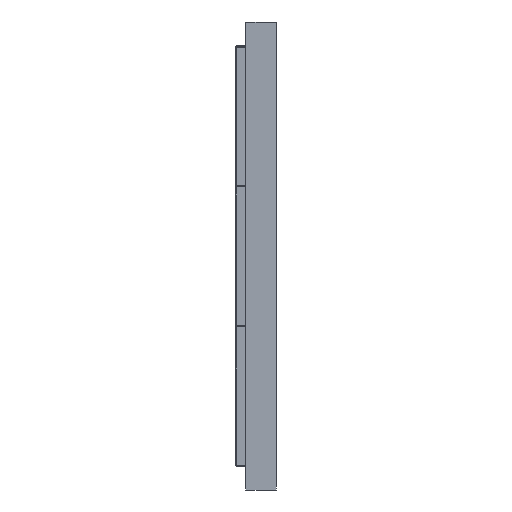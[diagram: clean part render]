
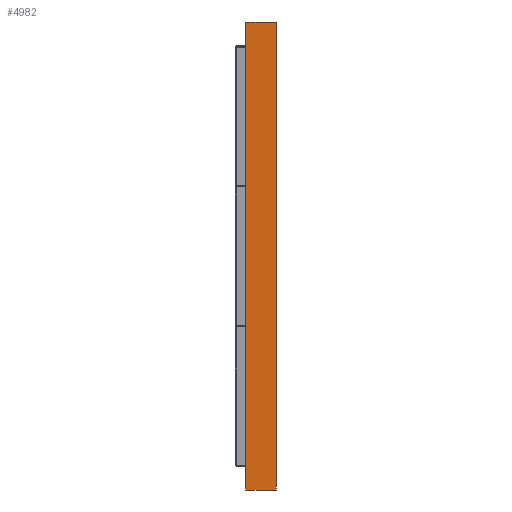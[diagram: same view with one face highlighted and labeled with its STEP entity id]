
A CAD part, left-side view. The second image highlights one B-rep face of the part: STEP entity #4982.
In plain terms, the highlighted planar face has unit normal (-0.999, 0, -0.035).
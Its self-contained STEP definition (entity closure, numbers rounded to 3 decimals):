
#694 = AXIS2_PLACEMENT_3D ( 'NONE', #14592, #21034, #9071 ) ;
#4085 = CARTESIAN_POINT ( 'NONE',  ( -79.041, 152.92, 276.41 ) ) ;
#4120 = DIRECTION ( 'NONE',  ( 0., -1., 0. ) ) ;
#4333 = ORIENTED_EDGE ( 'NONE', *, *, #12287, .F. ) ;
#4982 = ADVANCED_FACE ( 'NONE', ( #9617 ), #29141, .F. ) ;
#5121 = EDGE_CURVE ( 'NONE', #35282, #16017, #33361, .T. ) ;
#6894 = CARTESIAN_POINT ( 'NONE',  ( -79.041, 164.92, 276.41 ) ) ;
#7831 = VERTEX_POINT ( 'NONE', #6894 ) ;
#8170 = ORIENTED_EDGE ( 'NONE', *, *, #24287, .F. ) ;
#9071 = DIRECTION ( 'NONE',  ( 0., -1., 0. ) ) ;
#9223 = VERTEX_POINT ( 'NONE', #13701 ) ;
#9617 = FACE_OUTER_BOUND ( 'NONE', #31654, .T. ) ;
#10734 = LINE ( 'NONE', #21954, #17932 ) ;
#11809 = DIRECTION ( 'NONE',  ( 0., -1., 0. ) ) ;
#12287 = EDGE_CURVE ( 'NONE', #7831, #35282, #12352, .T. ) ;
#12352 = LINE ( 'NONE', #23584, #17698 ) ;
#13146 = CARTESIAN_POINT ( 'NONE',  ( -72.616, 164.92, 92.41 ) ) ;
#13701 = CARTESIAN_POINT ( 'NONE',  ( -72.616, 164.92, 92.41 ) ) ;
#14592 = CARTESIAN_POINT ( 'NONE',  ( -72.616, 164.92, 92.41 ) ) ;
#16017 = VERTEX_POINT ( 'NONE', #28301 ) ;
#17295 = DIRECTION ( 'NONE',  ( 0.035, 0., -0.999 ) ) ;
#17698 = VECTOR ( 'NONE', #4120, 1000. ) ;
#17923 = LINE ( 'NONE', #13146, #26656 ) ;
#17932 = VECTOR ( 'NONE', #11809, 1000. ) ;
#21034 = DIRECTION ( 'NONE',  ( 0.999, 0., 0.035 ) ) ;
#21954 = CARTESIAN_POINT ( 'NONE',  ( -72.616, 164.92, 92.41 ) ) ;
#21964 = DIRECTION ( 'NONE',  ( -0.035, 0., 0.999 ) ) ;
#23584 = CARTESIAN_POINT ( 'NONE',  ( -79.041, 164.92, 276.41 ) ) ;
#24086 = ORIENTED_EDGE ( 'NONE', *, *, #5121, .F. ) ;
#24287 = EDGE_CURVE ( 'NONE', #9223, #7831, #17923, .T. ) ;
#25240 = CARTESIAN_POINT ( 'NONE',  ( -72.616, 152.92, 92.41 ) ) ;
#26656 = VECTOR ( 'NONE', #21964, 1000. ) ;
#28301 = CARTESIAN_POINT ( 'NONE',  ( -72.616, 152.92, 92.41 ) ) ;
#28990 = ORIENTED_EDGE ( 'NONE', *, *, #33524, .T. ) ;
#29141 = PLANE ( 'NONE',  #694 ) ;
#31654 = EDGE_LOOP ( 'NONE', ( #28990, #24086, #4333, #8170 ) ) ;
#33361 = LINE ( 'NONE', #25240, #34772 ) ;
#33524 = EDGE_CURVE ( 'NONE', #9223, #16017, #10734, .T. ) ;
#34772 = VECTOR ( 'NONE', #17295, 1000. ) ;
#35282 = VERTEX_POINT ( 'NONE', #4085 ) ;
